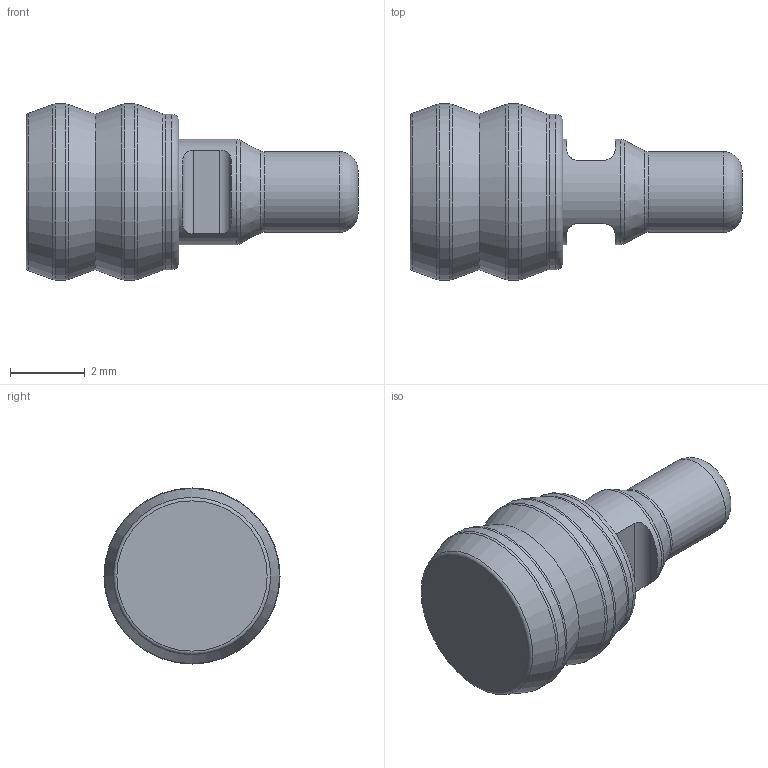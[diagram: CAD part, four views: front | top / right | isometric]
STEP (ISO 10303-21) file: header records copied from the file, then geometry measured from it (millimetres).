
FILE_DESCRIPTION(/* description */ ('LEE CHEK, 4.5mm, PRESS-IN'),/* implementation_level */ '2;1');
FILE_NAME(/* name */ '\\ABSOLUTE\SmWork\Vernon\CCPI45XXXXXS.stp',/* time_stamp */ '2021-03-23T14:55:00-04:00',/* author */ ('VernonJ'),/* organization */ (''),/* preprocessor_version */ 'ST-DEVELOPER v18',/* originating_system */ 'Autodesk Inventor 2020',/* authorisation */ '');
FILE_SCHEMA (('AUTOMOTIVE_DESIGN { 1 0 10303 214 3 1 1 }'));
Length unit declared in the file: millimetre
Products named in the file (1): CCPI45XXXXXS
Bounding box: 8.9 x 4.72 x 4.72 mm (x, y, z)
Volume: 84.2 mm3; surface area: 120.7 mm2
Topology: 1 solids, 1 shells, 33 faces, 108 edges, 79 vertices
Faces by surface type: torus 10, plane 9, cylinder 9, cone 5
Full cylindrical faces by diameter (mm): 2.16 x1, 2.82 x1, 4.17 x1, 4.72 x2
Entity records: 1380 total; most frequent: CARTESIAN_POINT 309, DIRECTION 245, ORIENTED_EDGE 216, AXIS2_PLACEMENT_3D 111, EDGE_CURVE 108, VERTEX_POINT 79, CIRCLE 77, EDGE_LOOP 35
